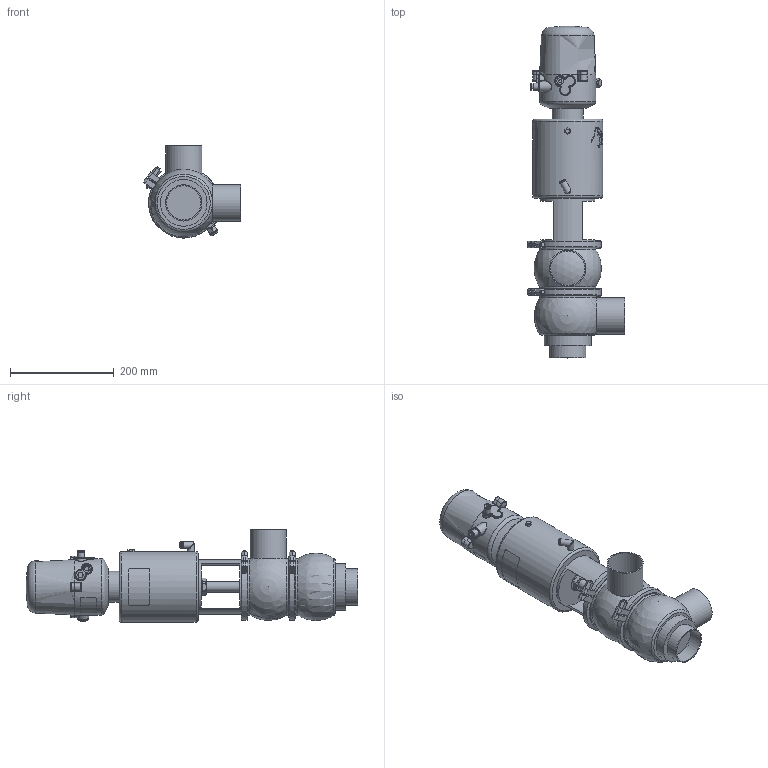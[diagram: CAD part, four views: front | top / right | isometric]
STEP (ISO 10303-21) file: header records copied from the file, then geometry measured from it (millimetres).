
FILE_DESCRIPTION (( 'STEP AP214' ), '1' );
FILE_NAME ('INNOVA K H W DIN 065 T3 AS NC & C-TOP S_10.240.16.0073.STEP', '2024-08-06T08:53:35', ( '' ), ( '' ), 'SwSTEP 2.0', 'SolidWorks 2023', '' );
FILE_SCHEMA (( 'AUTOMOTIVE_DESIGN' ));
Length unit declared in the file: millimetre
Products named in the file (8): 10.240.15.0014_T3 AS P0; 10.426.15.0001_C-TOP S - 1 EV; 10.240.15.0010_DN 065; 10.240.15.0006_DIN 065; 10.240.15.0002_DIN 065; 10.240.15.0001_DN 065; INNOVA K H W DIN 065 T3 AS NC & C-TOP S_10.240.16.0073; 10.240.15.0017_Estàndard
Assembly tree (8 placements, depth 2):
  INNOVA K H W DIN 065 T3 AS NC & C-TOP S_10.240.16.0073
    10.240.15.0006_DIN 065
    10.240.15.0002_DIN 065
    10.240.15.0010_DN 065
    10.240.15.0014_T3 AS P0
    10.240.15.0017_Estàndard
    10.426.15.0001_C-TOP S - 1 EV
    10.240.15.0001_DN 065  x2
Bounding box: 188.15 x 640.5 x 178 mm (x, y, z)
Volume: 6129644.7 mm3; surface area: 475690.9 mm2
Topology: 8 solids, 8 shells, 1174 faces, 2835 edges, 1888 vertices
Faces by surface type: plane 412, cylinder 356, cone 201, bspline 160, torus 37, sphere 8
Full cylindrical faces by diameter (mm): 0.371 x17, 0.512 x16, 0.658 x16, 0.795 x16, 0.94 x15, 1.098 x15, 1.241 x13, 1.382 x13, 1.523 x11, 1.669 x10, 2.201 x1, 4 x2, 5.5 x2, 6 x2, 6.15 x1, 8 x6, 8.5 x1, 10 x1, 10.5 x1, 11 x2, 12.5 x3, 13 x2, 13.5 x2, 16 x1, 17 x3, 20 x3, 20.5 x1, 22 x2, 31 x1, 34.5 x3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
Entity records: 58091 total; most frequent: CARTESIAN_POINT 27860, ORIENTED_EDGE 4514, DIRECTION 3655, EDGE_CURVE 2257, VERTEX_POINT 1607, EDGE_LOOP 1574, AXIS2_PLACEMENT_3D 1499, FACE_OUTER_BOUND 1333
